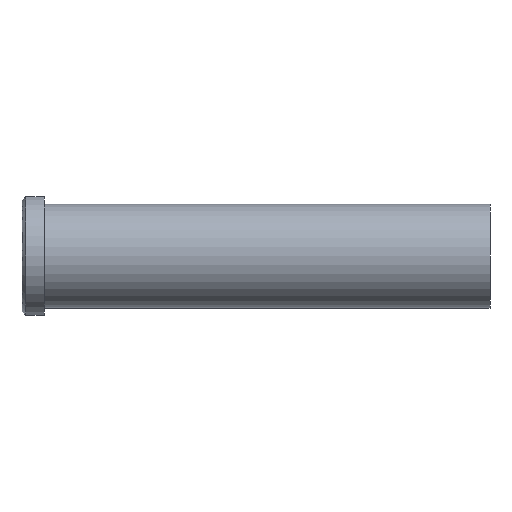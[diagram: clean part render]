
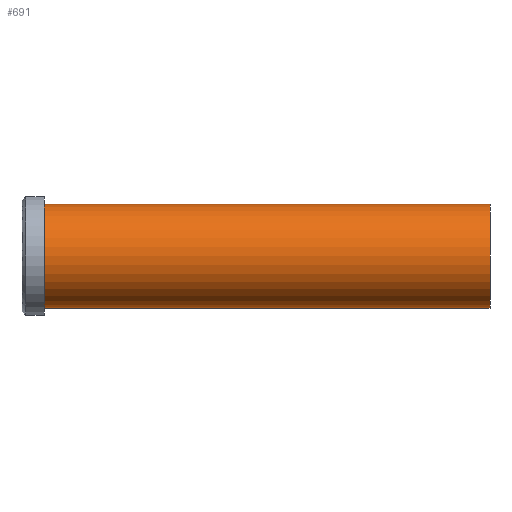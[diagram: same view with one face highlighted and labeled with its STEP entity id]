
A CAD part, front view. The second image highlights one B-rep face of the part: STEP entity #691.
In plain terms, the highlighted cylindrical face has radius 14 mm (diameter 28 mm), a partial arc.
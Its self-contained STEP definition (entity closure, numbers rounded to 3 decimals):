
#501=CARTESIAN_POINT('Vertex',(0.,0.,-14.)) ;
#506=CARTESIAN_POINT('Axis2P3D Location',(0.,0.,0.)) ;
#510=CARTESIAN_POINT('Vertex',(0.,-14.,0.)) ;
#513=CARTESIAN_POINT('Axis2P3D Location',(0.,0.,0.)) ;
#517=CARTESIAN_POINT('Vertex',(0.,0.,14.)) ;
#631=CARTESIAN_POINT('Line Origine',(120.,0.,14.)) ;
#635=CARTESIAN_POINT('Vertex',(120.,0.,14.)) ;
#649=CARTESIAN_POINT('Vertex',(120.,0.,-14.)) ;
#652=CARTESIAN_POINT('Line Origine',(120.,0.,-14.)) ;
#666=CARTESIAN_POINT('Axis2P3D Location',(120.,0.,0.)) ;
#671=CARTESIAN_POINT('Axis2P3D Location',(120.,0.,0.)) ;
#675=CARTESIAN_POINT('Vertex',(120.,-14.,0.)) ;
#678=CARTESIAN_POINT('Axis2P3D Location',(120.,0.,0.)) ;
#507=DIRECTION('Axis2P3D Direction',(1.,0.,-0.)) ;
#514=DIRECTION('Axis2P3D Direction',(1.,0.,-0.)) ;
#632=DIRECTION('Vector Direction',(-1.,0.,0.)) ;
#653=DIRECTION('Vector Direction',(-1.,0.,0.)) ;
#667=DIRECTION('Axis2P3D Direction',(-1.,-0.,-0.)) ;
#668=DIRECTION('Axis2P3D XDirection',(0.,0.,-1.)) ;
#672=DIRECTION('Axis2P3D Direction',(-1.,-0.,-0.)) ;
#679=DIRECTION('Axis2P3D Direction',(-1.,-0.,-0.)) ;
#508=AXIS2_PLACEMENT_3D('Circle Axis2P3D',#506,#507,$) ;
#515=AXIS2_PLACEMENT_3D('Circle Axis2P3D',#513,#514,$) ;
#669=AXIS2_PLACEMENT_3D('Cylinder Axis2P3D',#666,#667,#668) ;
#673=AXIS2_PLACEMENT_3D('Circle Axis2P3D',#671,#672,$) ;
#680=AXIS2_PLACEMENT_3D('Circle Axis2P3D',#678,#679,$) ;
#684=ORIENTED_EDGE('',*,*,#656,.T.) ;
#685=ORIENTED_EDGE('',*,*,#677,.F.) ;
#686=ORIENTED_EDGE('',*,*,#682,.F.) ;
#687=ORIENTED_EDGE('',*,*,#637,.T.) ;
#688=ORIENTED_EDGE('',*,*,#519,.T.) ;
#689=ORIENTED_EDGE('',*,*,#512,.T.) ;
#633=VECTOR('Line Direction',#632,1.) ;
#654=VECTOR('Line Direction',#653,1.) ;
#691=ADVANCED_FACE('353-20X126',(#690),#670,.T.) ;
#509=CIRCLE('generated circle',#508,14.) ;
#516=CIRCLE('generated circle',#515,14.) ;
#674=CIRCLE('generated circle',#673,14.) ;
#681=CIRCLE('generated circle',#680,14.) ;
#670=CYLINDRICAL_SURFACE('generated cylinder',#669,14.) ;
#512=EDGE_CURVE('',#511,#502,#509,.T.) ;
#519=EDGE_CURVE('',#518,#511,#516,.T.) ;
#637=EDGE_CURVE('',#636,#518,#634,.T.) ;
#656=EDGE_CURVE('',#502,#650,#655,.F.) ;
#677=EDGE_CURVE('',#676,#650,#674,.F.) ;
#682=EDGE_CURVE('',#636,#676,#681,.F.) ;
#683=EDGE_LOOP('',(#684,#685,#686,#687,#688,#689)) ;
#690=FACE_OUTER_BOUND('',#683,.T.) ;
#634=LINE('Line',#631,#633) ;
#655=LINE('Line',#652,#654) ;
#502=VERTEX_POINT('',#501) ;
#511=VERTEX_POINT('',#510) ;
#518=VERTEX_POINT('',#517) ;
#636=VERTEX_POINT('',#635) ;
#650=VERTEX_POINT('',#649) ;
#676=VERTEX_POINT('',#675) ;
